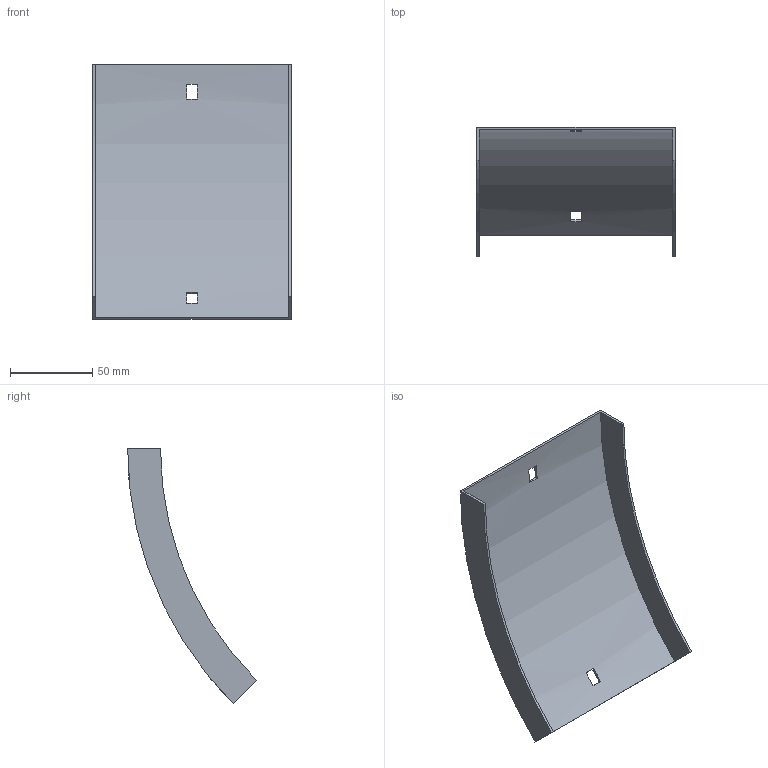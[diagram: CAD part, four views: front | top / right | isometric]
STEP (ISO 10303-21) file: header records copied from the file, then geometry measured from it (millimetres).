
FILE_DESCRIPTION (( 'STEP AP214' ), '1' );
FILE_NAME ('34N1J117.step', '2025-02-21T09:14:14', ( '' ), ( '' ), 'SwSTEP 2.0', 'SolidWorks 2023', '' );
FILE_SCHEMA (( 'AUTOMOTIVE_DESIGN' ));
Length unit declared in the file: millimetre
Products named in the file (1): 34N1J117
Bounding box: 120.5 x 78.29 x 154.86 mm (x, y, z)
Volume: 39884.4 mm3; surface area: 54215.7 mm2
Topology: 1 solids, 1 shells, 18 faces, 48 edges, 32 vertices
Faces by surface type: plane 14, cylinder 4
Entity records: 599 total; most frequent: DIRECTION 102, CARTESIAN_POINT 99, ORIENTED_EDGE 96, EDGE_CURVE 48, AXIS2_PLACEMENT_3D 35, LINE 32, VECTOR 32, VERTEX_POINT 32
